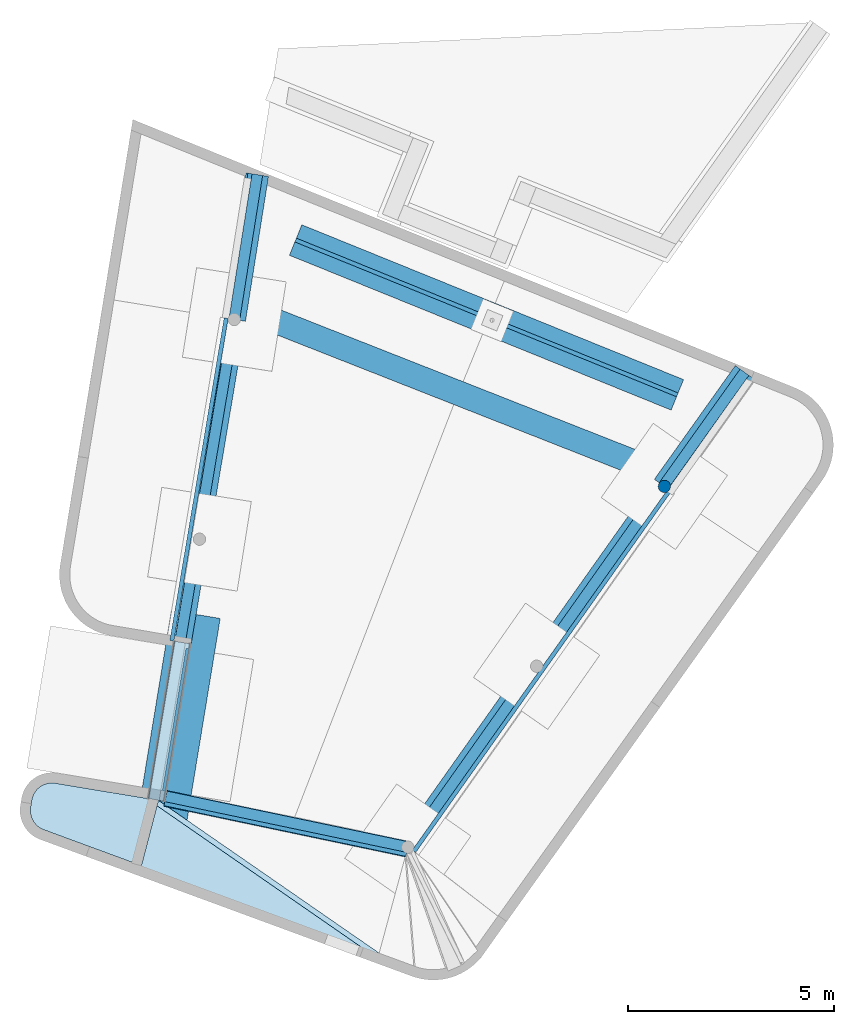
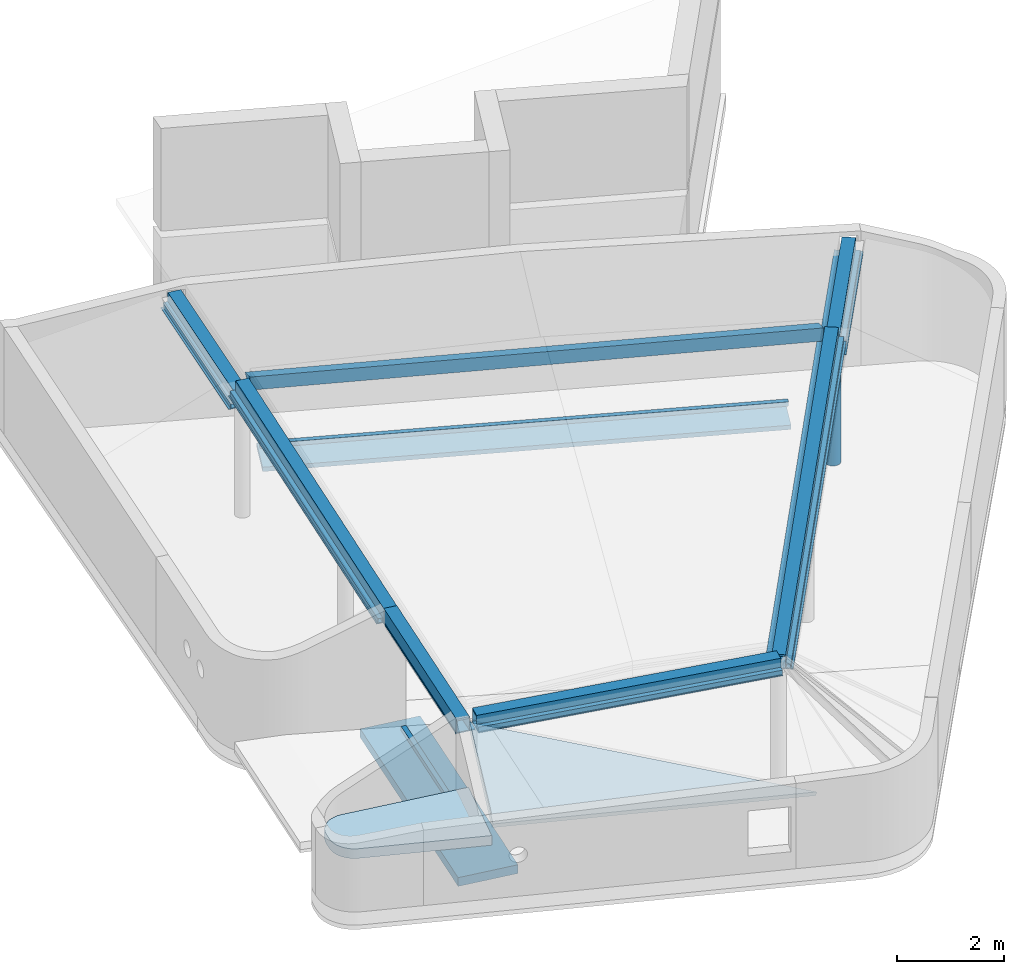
# One storey, part 2 of 8: 16 beams, 2 slabs, 1 column.
"""IFC2X3 building model written with IfcOpenShell, lengths in millimetres."""

from ifc_helpers import new_model, si_unit, frame, origin_with_axes, place, context, subcontext, project, spatial, faceted_brep, material, type_object, element, save


model = new_model("IFC2X3")

# Units and contexts
model_context = context("Model", 3, precision=1e-05, world=origin_with_axes())
body_context = subcontext(model_context, "Body", "Model", "MODEL_VIEW")
ifc_project = project(units=[si_unit("LENGTHUNIT", "METRE", prefix="MILLI"), si_unit("AREAUNIT", "SQUARE_METRE"), si_unit("VOLUMEUNIT", "CUBIC_METRE"), si_unit("MASSUNIT", "GRAM", prefix="KILO"), si_unit("TIMEUNIT", "SECOND"), si_unit("PLANEANGLEUNIT", "RADIAN"), si_unit("SOLIDANGLEUNIT", "STERADIAN"), si_unit("THERMODYNAMICTEMPERATUREUNIT", "DEGREE_CELSIUS"), si_unit("LUMINOUSINTENSITYUNIT", "LUMEN")], contexts=[model_context])

# Site, building, storey
site_placement = place(None, origin_with_axes())
site = spatial("IfcSite", under=ifc_project, at=site_placement, Name="Site", CompositionType="ELEMENT")
building_placement = place(site_placement, origin_with_axes())
building = spatial("IfcBuilding", under=site, at=building_placement, Name="Undefined", CompositionType="ELEMENT")
storey_placement = place(building_placement, origin_with_axes())
storey = spatial("IfcBuildingStorey", under=building, at=storey_placement, Name="Undefined", CompositionType="ELEMENT", Elevation=0.0)

# Column
ifc_material_1 = material(Name="CONCRETE/C55/67")
column_type = type_object("IfcColumnType", Name="D300", PredefinedType="NOTDEFINED")
column_placement = place(storey_placement, frame((53224.4614740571, 49616.051900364, 36200.0), z_axis=(0.573576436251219, 0.819152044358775, 4.37000002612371e-07), x_axis=(0.0, 0.0, 1.0)))
element("IfcColumn", 1, at=column_placement, inside=storey, type_object=column_type, material=ifc_material_1, Name="PLASSTØPTSØYLE", ObjectType="D300", context=body_context, shape_type="Brep", body=[
    faceted_brep([(446.973988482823, -150.000000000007, 0.0), (446.973988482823, -147.117792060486, -29.2635483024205), (2900.0, -147.117792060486, -29.2635483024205), (2900.0, -150.000000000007, 0.0), (446.973988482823, -138.581929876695, -57.4025148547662), (2900.0, -138.581929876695, -57.4025148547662), (446.973988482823, -124.720441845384, -83.3355349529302), (2900.0, -124.720441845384, -83.3355349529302), (446.973988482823, -106.066017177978, -106.066017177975), (2900.0, -106.066017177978, -106.066017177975), (446.973988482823, -83.3355349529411, -124.720441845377), (2900.0, -83.3355349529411, -124.720441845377), (446.973988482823, -57.4025148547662, -138.581929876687), (2900.0, -57.4025148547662, -138.581929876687), (446.973988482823, -29.2635483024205, -147.117792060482), (2900.0, -29.2635483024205, -147.117792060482), (446.973988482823, 3.63797880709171e-12, -150.0), (2900.0, 3.63797880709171e-12, -150.0), (446.973988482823, 29.2635483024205, -147.117792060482), (2900.0, 29.2635483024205, -147.117792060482), (446.973988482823, 57.4025148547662, -138.581929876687), (2900.0, 57.4025148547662, -138.581929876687), (446.973988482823, 83.3355349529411, -124.720441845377), (2900.0, 83.3355349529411, -124.720441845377), (446.973988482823, 106.066017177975, -106.066017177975), (2900.0, 106.066017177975, -106.066017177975), (446.973988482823, 124.72044184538, -83.3355349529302), (2900.0, 124.72044184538, -83.3355349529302), (446.973988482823, 138.581929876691, -57.4025148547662), (2900.0, 138.581929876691, -57.4025148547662), (446.973988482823, 147.117792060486, -29.2635483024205), (2900.0, 147.117792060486, -29.2635483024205), (446.973988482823, 150.000000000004, 0.0), (2900.0, 150.000000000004, 0.0), (446.973988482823, 147.117792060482, 29.2635483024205), (2900.0, 147.117792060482, 29.2635483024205), (446.973988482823, 138.581929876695, 57.4025148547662), (2900.0, 138.581929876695, 57.4025148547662), (446.973988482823, 124.72044184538, 83.3355349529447), (2900.0, 124.72044184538, 83.3355349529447), (446.973988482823, 106.066017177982, 106.066017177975), (2900.0, 106.066017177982, 106.066017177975), (446.973988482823, 83.3355349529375, 124.720441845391), (2900.0, 83.3355349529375, 124.720441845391), (446.973988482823, 57.4025148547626, 138.581929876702), (2900.0, 57.4025148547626, 138.581929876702), (446.973988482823, 29.2635483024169, 147.117792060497), (2900.0, 29.2635483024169, 147.117792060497), (446.973988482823, -7.27595761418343e-12, 150.0), (2900.0, -7.27595761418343e-12, 150.0), (446.973988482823, -29.2635483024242, 147.117792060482), (2900.0, -29.2635483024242, 147.117792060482), (446.973988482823, -57.4025148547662, 138.581929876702), (2900.0, -57.4025148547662, 138.581929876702), (446.973988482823, -83.3355349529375, 124.720441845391), (2900.0, -83.3355349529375, 124.720441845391), (446.973988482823, -106.066017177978, 106.066017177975), (2900.0, -106.066017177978, 106.066017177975), (446.973988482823, -124.720441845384, 83.3355349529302), (2900.0, -124.720441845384, 83.3355349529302), (446.973988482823, -138.581929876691, 57.4025148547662), (2900.0, -138.581929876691, 57.4025148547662), (446.973988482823, -147.11779206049, 29.2635483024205), (2900.0, -147.11779206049, 29.2635483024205)], [[[0, 1, 2, 3]], [[1, 4, 5, 2]], [[4, 6, 7, 5]], [[6, 8, 9, 7]], [[8, 10, 11, 9]], [[10, 12, 13, 11]], [[12, 14, 15, 13]], [[14, 16, 17, 15]], [[16, 18, 19, 17]], [[18, 20, 21, 19]], [[20, 22, 23, 21]], [[22, 24, 25, 23]], [[24, 26, 27, 25]], [[26, 28, 29, 27]], [[28, 30, 31, 29]], [[30, 32, 33, 31]], [[32, 34, 35, 33]], [[34, 36, 37, 35]], [[36, 38, 39, 37]], [[38, 40, 41, 39]], [[40, 42, 43, 41]], [[42, 44, 45, 43]], [[44, 46, 47, 45]], [[46, 48, 49, 47]], [[48, 50, 51, 49]], [[50, 52, 53, 51]], [[52, 54, 55, 53]], [[54, 56, 57, 55]], [[56, 58, 59, 57]], [[58, 60, 61, 59]], [[60, 62, 63, 61]], [[62, 0, 3, 63]], [[5, 7, 9, 11, 13, 15, 17, 19, 21, 23, 25, 27, 29, 31, 33, 35, 37, 39, 41, 43, 45, 47, 49, 51, 53, 55, 57, 59, 61, 63, 3, 2]], [[62, 60, 58, 56, 54, 52, 50, 48, 46, 44, 42, 40, 38, 36, 34, 32, 30, 28, 26, 24, 22, 20, 18, 16, 14, 12, 10, 8, 6, 4, 1, 0]]]),
])

# Beams
ifc_material_2 = material(Name="CONCRETE/C45/55")
beam_type_1 = type_object("IfcBeamType", Name="100*800", PredefinedType="NOTDEFINED")
beam_1_placement = place(storey_placement, frame((44272.9920491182, 55597.2418591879, 36249.9067074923), z_axis=(-7.14600000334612e-06, 2.89799999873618e-06, 0.999999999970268), x_axis=(0.926706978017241, -0.375784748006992, 7.7120000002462e-06)))
element("IfcBeam", 2, at=beam_1_placement, inside=storey, type_object=beam_type_1, material=ifc_material_2, Name="PLASSTØPTFUNDAMENT", ObjectType="100*800", context=body_context, shape_type="Brep", body=[
    faceted_brep([(3.63834260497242e-08, 399.999999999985, -49.9999999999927), (-3.63907020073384e-08, 399.999999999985, 50.0), (9999.99841485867, 399.999999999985, 50.0000000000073), (9999.99841493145, 400.0, -49.9999999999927), (-3.63907020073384e-08, -400.0, 50.0), (9999.99841485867, -400.000000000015, 50.0), (3.63797880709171e-08, -400.000000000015, -50.0), (9999.99841493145, -400.0, -49.9999999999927)], [[[0, 1, 2, 3]], [[1, 4, 5, 2]], [[4, 6, 7, 5]], [[6, 0, 3, 7]], [[5, 7, 3, 2]], [[6, 4, 1, 0]]]),
])
beam_type_2 = type_object("IfcBeamType", Name="100*100", PredefinedType="NOTDEFINED")
beam_2_placement = place(storey_placement, frame((41088.3537004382, 42225.3778449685, 36990.2637292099), z_axis=(0.0, 0.0, 1.0), x_axis=(0.163736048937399, 0.986504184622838, 1.99999957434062e-09)))
element("IfcBeam", 3, at=beam_2_placement, inside=storey, type_object=beam_type_2, material=ifc_material_1, Name="SLUKRENNE", ObjectType="100*100", context=body_context, shape_type="Brep", body=[
    faceted_brep([(1.34605215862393e-09, 49.9999999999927, -50.0000000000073), (-1.35332811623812e-09, 49.9999999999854, 49.9999999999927), (3499.73999524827, 49.9999999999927, 49.9999999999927), (3499.73999525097, 50.0, -50.0000000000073), (-1.35332811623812e-09, -50.0000000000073, 50.0), (3499.73999524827, -50.0000000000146, 50.0), (1.34605215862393e-09, -50.0, -50.0), (3499.73999525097, -50.0000000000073, -50.0)], [[[0, 1, 2, 3]], [[1, 4, 5, 2]], [[4, 6, 7, 5]], [[6, 0, 3, 7]], [[5, 7, 3, 2]], [[6, 4, 1, 0]]]),
])
beam_3_placement = place(storey_placement, frame((44272.9920491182, 55597.2418591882, 36539.9067074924), z_axis=(-7.14600000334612e-06, 2.89799999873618e-06, 0.999999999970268), x_axis=(0.926706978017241, -0.375784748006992, 7.7120000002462e-06)))
element("IfcBeam", 4, at=beam_3_placement, inside=storey, type_object=beam_type_2, material=ifc_material_1, Name="SLUKRENNE", ObjectType="100*100", context=body_context, shape_type="Brep", body=[
    faceted_brep([(1.34605215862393e-09, 49.9999999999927, -50.0000000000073), (-1.35332811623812e-09, 49.9999999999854, 49.9999999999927), (9999.99841485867, 50.0, 50.0), (9999.99841493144, 50.0000000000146, -50.0), (-1.35332811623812e-09, -50.0000000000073, 50.0), (9999.99841485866, -50.0, 50.0), (1.34605215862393e-09, -50.0, -50.0), (9999.99841493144, -49.9999999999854, -50.0)], [[[0, 1, 2, 3]], [[1, 4, 5, 2]], [[4, 6, 7, 5]], [[6, 0, 3, 7]], [[5, 7, 3, 2]], [[6, 4, 1, 0]]]),
])
beam_type_3 = type_object("IfcBeamType", Name="200*1200", PredefinedType="NOTDEFINED")
beam_4_placement = place(storey_placement, frame((41849.4864097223, 46508.7702236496, 36450.0), z_axis=(0.0, 0.0, 1.0), x_axis=(-0.1620464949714, -0.986783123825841, 0.0)))
element("IfcBeam", 5, at=beam_4_placement, inside=storey, type_object=beam_type_3, material=ifc_material_2, Name="PLASSTØPTFUNDAMENT", ObjectType="200*1200", context=body_context, shape_type="Brep", body=[
    faceted_brep([(-2.18278728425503e-11, 600.0, -100.0), (-2.18278728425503e-11, 600.0, 100.0), (5200.88687389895, 600.0, 100.0), (5200.88687389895, 600.0, -100.0), (-1.45519152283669e-11, -600.000000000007, 100.0), (5200.88687389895, -600.0, 100.0), (-1.45519152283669e-11, -600.000000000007, -100.0), (5200.88687389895, -600.0, -100.0)], [[[0, 1, 2, 3]], [[1, 4, 5, 2]], [[4, 6, 7, 5]], [[6, 0, 3, 7]], [[5, 7, 3, 2]], [[6, 4, 1, 0]]]),
])
beam_type_4 = type_object("IfcBeamType", Name="TRIANGLE300*600", PredefinedType="NOTDEFINED")
beam_5_placement = place(storey_placement, frame((53158.6875484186, 49939.1893886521, 39589.9999938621), z_axis=(0.0, 0.0, 1.0), x_axis=(-0.930478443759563, 0.366346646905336, 1.00000022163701e-09)))
element("IfcBeam", 6, at=beam_5_placement, inside=storey, type_object=beam_type_4, material=ifc_material_1, Name="PLASSTØPTBJELKE", ObjectType="TRIANGLE300*600", context=body_context, shape_type="Brep", body=[
    faceted_brep([(-1.04446371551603e-08, 300.0, 150.0), (1.04228092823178e-08, -300.0, -150.0), (10873.3196159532, -300.0, -150.0), (10873.3196159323, 300.0, 150.0), (1.04155333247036e-08, 300.0, -150.0), (10873.3196159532, 300.0, -150.0)], [[[0, 1, 2, 3]], [[1, 4, 5, 2]], [[4, 0, 3, 5]], [[5, 3, 2]], [[4, 1, 0]]]),
])
ifc_material_3 = material(Name="STEEL/S355")
beam_type_5 = type_object("IfcBeamType", Name="RHS100*5", PredefinedType="NOTDEFINED")
beam_6_placement = place(storey_placement, frame((47143.8567840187, 40755.200737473, 39469.9999998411), z_axis=(0.0, 0.0, 1.0), x_axis=(0.577858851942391, 0.816136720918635, 0.0)))
element("IfcBeam", 7, at=beam_6_placement, inside=storey, type_object=beam_type_5, material=ifc_material_3, Name="STÅLBJELKE", ObjectType="RHS100*5", context=body_context, shape_type="Brep", body=[
    faceted_brep([(7.27595761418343e-12, 45.0000000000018, -45.0), (7.27595761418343e-12, -45.0000000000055, -45.0), (10745.456048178, -45.0000000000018, -45.0), (10745.456048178, 44.9999999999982, -45.0), (7.27595761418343e-12, -45.0000000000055, 45.0), (10745.456048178, -45.0000000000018, 45.0), (7.27595761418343e-12, 45.0000000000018, 45.0), (10745.456048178, 44.9999999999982, 45.0), (1.34605215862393e-09, 49.9999999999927, -50.0000000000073), (-1.35332811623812e-09, 49.9999999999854, 49.9999999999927), (10745.456048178, 49.9999999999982, 50.0), (10745.456048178, 49.9999999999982, -50.0), (-1.35332811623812e-09, -50.0000000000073, 50.0), (10745.456048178, -50.0000000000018, 50.0), (1.34605215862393e-09, -50.0, -50.0), (10745.456048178, -50.0000000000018, -50.0)], [[[0, 1, 2, 3]], [[1, 4, 5, 2]], [[4, 6, 7, 5]], [[6, 0, 3, 7]], [[8, 9, 10, 11]], [[9, 12, 13, 10]], [[12, 14, 15, 13]], [[14, 8, 11, 15]], [[13, 15, 11, 10], [5, 7, 3, 2]], [[14, 12, 9, 8], [6, 4, 1, 0]]]),
])
beam_7_placement = place(storey_placement, frame((55250.5353313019, 52190.2478695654, 39164.9999998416), z_axis=(0.0, 0.0, 1.0), x_axis=(-0.579931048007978, -0.814665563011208, 0.0)))
element("IfcBeam", 8, at=beam_7_placement, inside=storey, type_object=beam_type_5, material=ifc_material_3, Name="STÅLBJELKE", ObjectType="RHS100*5", context=body_context, shape_type="Brep", body=[
    faceted_brep([(7.27595761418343e-12, 45.0000000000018, -45.0), (7.27595761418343e-12, -45.0000000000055, -45.0), (3272.09018302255, -45.0000000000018, -45.0), (3272.09018302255, 44.9999999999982, -45.0), (7.27595761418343e-12, -45.0000000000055, 45.0), (3272.09018302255, -45.0000000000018, 45.0), (7.27595761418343e-12, 45.0000000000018, 45.0), (3272.09018302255, 44.9999999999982, 45.0), (1.34605215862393e-09, 49.9999999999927, -50.0000000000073), (-1.35332811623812e-09, 49.9999999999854, 49.9999999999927), (3272.09018302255, 50.0000000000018, 50.0), (3272.09018302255, 50.0000000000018, -50.0), (-1.35332811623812e-09, -50.0000000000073, 50.0), (3272.09018302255, -50.0000000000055, 50.0), (1.34605215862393e-09, -50.0, -50.0), (3272.09018302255, -50.0000000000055, -50.0)], [[[0, 1, 2, 3]], [[1, 4, 5, 2]], [[4, 6, 7, 5]], [[6, 0, 3, 7]], [[8, 9, 10, 11]], [[9, 12, 13, 10]], [[12, 14, 15, 13]], [[14, 8, 11, 15]], [[13, 15, 11, 10], [5, 7, 3, 2]], [[14, 12, 9, 8], [6, 4, 1, 0]]]),
])
beam_8_placement = place(storey_placement, frame((43163.9086078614, 57213.3003727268, 39165.0), z_axis=(0.0, 0.0, 1.0), x_axis=(-0.157044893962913, -0.987591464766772, 0.0)))
element("IfcBeam", 9, at=beam_8_placement, inside=storey, type_object=beam_type_5, material=ifc_material_3, Name="STÅLBJELKE", ObjectType="RHS100*5", context=body_context, shape_type="Brep", body=[
    faceted_brep([(7.27595761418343e-12, 45.0000000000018, -45.0), (7.27595761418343e-12, -45.0000000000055, -45.0), (3560.72210904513, -44.9999999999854, -45.0), (3560.72210904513, 45.0000000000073, -45.0), (7.27595761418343e-12, -45.0000000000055, 45.0), (3560.72210904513, -44.9999999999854, 45.0), (7.27595761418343e-12, 45.0000000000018, 45.0), (3560.72210904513, 45.0000000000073, 45.0), (1.34605215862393e-09, 49.9999999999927, -50.0000000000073), (-1.35332811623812e-09, 49.9999999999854, 49.9999999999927), (3560.72210904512, 50.0000000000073, 50.0), (3560.72210904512, 50.0000000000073, -50.0), (-1.35332811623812e-09, -50.0000000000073, 50.0), (3560.72210904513, -49.9999999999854, 50.0), (1.34605215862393e-09, -50.0, -50.0), (3560.72210904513, -49.9999999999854, -50.0)], [[[0, 1, 2, 3]], [[1, 4, 5, 2]], [[4, 6, 7, 5]], [[6, 0, 3, 7]], [[8, 9, 10, 11]], [[9, 12, 13, 10]], [[12, 14, 15, 13]], [[14, 8, 11, 15]], [[13, 15, 11, 10], [5, 7, 3, 2]], [[14, 12, 9, 8], [6, 4, 1, 0]]]),
])
beam_9_placement = place(storey_placement, frame((41087.2458950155, 41914.8546853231, 39470.0000000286), z_axis=(0.0, 0.0, 1.0), x_axis=(0.978682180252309, -0.205380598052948, 0.0)))
element("IfcBeam", 10, at=beam_9_placement, inside=storey, type_object=beam_type_5, material=ifc_material_3, Name="STÅLBJELKE", ObjectType="RHS100*5", context=body_context, shape_type="Brep", body=[
    faceted_brep([(7.27595761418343e-12, 45.0000000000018, -45.0), (7.27595761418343e-12, -45.0000000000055, -45.0), (5999.62165334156, -45.0, -45.0), (5999.62165334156, 45.0, -45.0), (7.27595761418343e-12, -45.0000000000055, 45.0), (5999.62165334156, -45.0, 45.0), (7.27595761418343e-12, 45.0000000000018, 45.0), (5999.62165334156, 45.0, 45.0), (1.34605215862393e-09, 49.9999999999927, -50.0000000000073), (-1.35332811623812e-09, 49.9999999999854, 49.9999999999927), (5999.62165334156, 50.0, 50.0), (5999.62165334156, 50.0, -50.0), (-1.35332811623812e-09, -50.0000000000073, 50.0), (5999.62165334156, -50.0, 50.0), (1.34605215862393e-09, -50.0, -50.0), (5999.62165334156, -50.0, -50.0)], [[[0, 1, 2, 3]], [[1, 4, 5, 2]], [[4, 6, 7, 5]], [[6, 0, 3, 7]], [[8, 9, 10, 11]], [[9, 12, 13, 10]], [[12, 14, 15, 13]], [[14, 8, 11, 15]], [[13, 15, 11, 10], [5, 7, 3, 2]], [[14, 12, 9, 8], [6, 4, 1, 0]]]),
])
beam_type_6 = type_object("IfcBeamType", Name="RHS100*4", PredefinedType="NOTDEFINED")
beam_10_placement = place(storey_placement, frame((42586.2384896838, 53701.5160077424, 39470.0), z_axis=(0.0, 0.0, 1.0), x_axis=(-0.165930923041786, -0.986137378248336, 0.0)))
element("IfcBeam", 11, at=beam_10_placement, inside=storey, type_object=beam_type_6, material=ifc_material_3, Name="STÅLBJELKE", ObjectType="RHS100*4", context=body_context, shape_type="Brep", body=[
    faceted_brep([(0.0, 46.0, -46.0), (0.0, -46.0, -46.0), (7941.79073521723, -45.9999999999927, -46.0), (7941.79073521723, 46.0, -46.0), (0.0, -46.0, 46.0), (7941.79073521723, -45.9999999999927, 46.0), (0.0, 46.0, 46.0), (7941.79073521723, 46.0, 46.0), (1.34605215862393e-09, 49.9999999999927, -50.0000000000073), (-1.35332811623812e-09, 49.9999999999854, 49.9999999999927), (7941.79073521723, 50.0000000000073, 50.0), (7941.79073521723, 50.0000000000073, -50.0), (-1.35332811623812e-09, -50.0000000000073, 50.0), (7941.79073521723, -50.0, 50.0), (1.34605215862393e-09, -50.0, -50.0), (7941.79073521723, -50.0, -50.0)], [[[0, 1, 2, 3]], [[1, 4, 5, 2]], [[4, 6, 7, 5]], [[6, 0, 3, 7]], [[8, 9, 10, 11]], [[9, 12, 13, 10]], [[12, 14, 15, 13]], [[14, 8, 11, 15]], [[13, 15, 11, 10], [5, 7, 3, 2]], [[14, 12, 9, 8], [6, 4, 1, 0]]]),
])
beam_type_7 = type_object("IfcBeamType", Name="HSQ305*6-40*250-20*390-12", PredefinedType="NOTDEFINED")
beam_11_placement = place(storey_placement, frame((46996.137196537, 40859.7902743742, 39562.5000000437), z_axis=(0.0, 0.0, 1.0), x_axis=(-0.978682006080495, 0.205381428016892, 0.0)))
element("IfcBeam", 12, at=beam_11_placement, inside=storey, type_object=beam_type_7, material=ifc_material_3, Name="STÅLBJELKE", ObjectType="HSQ305*6-40*250-20*390-12", context=body_context, shape_type="Brep", body=[
    faceted_brep([(-2.92639015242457e-08, 125.0, -142.500000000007), (-2.92566255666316e-08, -125.000000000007, -142.5), (5999.61787352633, -125.000000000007, -142.5), (5999.61787352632, 125.0, -142.500000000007), (2.51602614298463e-08, -125.000000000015, 122.5), (5999.61787358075, -125.000000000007, 122.5), (2.51602614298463e-08, 124.999999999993, 122.499999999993), (5999.61787358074, 124.999999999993, 122.499999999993), (-3.33748175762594e-08, 246.999999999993, -162.500000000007), (-2.92639015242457e-08, 246.999999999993, -142.500000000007), (5999.61787352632, 246.999999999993, -142.500000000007), (5999.61787352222, 246.999999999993, -162.500000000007), (-2.92639015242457e-08, 130.999999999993, -142.500000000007), (5999.61787352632, 130.999999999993, -142.500000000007), (3.33748175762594e-08, 131.0, 162.499999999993), (5999.61787358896, 131.0, 162.499999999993), (3.33675416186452e-08, -131.000000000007, 162.5), (5999.61787358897, -131.0, 162.5), (-2.92639015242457e-08, -131.000000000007, -142.5), (5999.61787352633, -131.000000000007, -142.5), (-2.92566255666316e-08, -143.000000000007, -142.5), (5999.61787352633, -143.000000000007, -142.5), (-3.33748175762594e-08, -143.000000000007, -162.5), (5999.61787352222, -143.000000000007, -162.5)], [[[0, 1, 2, 3]], [[1, 4, 5, 2]], [[4, 6, 7, 5]], [[6, 0, 3, 7]], [[8, 9, 10, 11]], [[9, 12, 13, 10]], [[12, 14, 15, 13]], [[14, 16, 17, 15]], [[16, 18, 19, 17]], [[18, 20, 21, 19]], [[20, 22, 23, 21]], [[22, 8, 11, 23]], [[13, 15, 17, 19, 21, 23, 11, 10], [5, 7, 3, 2]], [[22, 20, 18, 16, 14, 12, 9, 8], [6, 4, 1, 0]]]),
])
beam_type_8 = type_object("IfcBeamType", Name="HSQ305*6-40*250-20*550", PredefinedType="NOTDEFINED")
beam_12_placement = place(storey_placement, frame((53205.4929333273, 49629.5544535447, 39562.5000000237), z_axis=(0.0, 0.0, 1.0), x_axis=(-0.577858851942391, -0.816136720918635, 0.0)))
element("IfcBeam", 13, at=beam_12_placement, inside=storey, type_object=beam_type_8, material=ifc_material_3, Name="STÅLBJELKE", ObjectType="HSQ305*6-40*250-20*550", context=body_context, shape_type="Brep", body=[
    faceted_brep([(-2.92639015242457e-08, 125.0, -142.500000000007), (-2.92566255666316e-08, -125.000000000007, -142.5), (10745.4560482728, -125.000000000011, -142.5), (10745.4560482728, 124.999999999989, -142.500000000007), (2.51602614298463e-08, -125.000000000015, 122.5), (10745.4560482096, -125.000000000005, 122.5), (2.51602614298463e-08, 124.999999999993, 122.499999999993), (10745.4560482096, 124.999999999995, 122.499999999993), (3.87080945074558e-08, 274.999999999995, -162.5), (3.39496182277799e-08, 274.999999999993, -142.5), (10745.4560482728, 274.999999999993, -142.5), (10745.4560482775, 274.999999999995, -162.5), (-2.92639015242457e-08, 130.999999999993, -142.500000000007), (10745.4560482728, 130.999999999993, -142.5), (3.33748175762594e-08, 131.0, 162.499999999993), (10745.4560482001, 130.999999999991, 162.5), (3.33675416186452e-08, -131.000000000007, 162.5), (10745.4560482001, -131.000000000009, 162.499999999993), (-2.92639015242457e-08, -131.000000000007, -142.5), (10745.4560482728, -131.000000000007, -142.500000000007), (3.39496182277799e-08, -275.000000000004, -142.5), (10745.4560482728, -275.000000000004, -142.5), (3.87080945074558e-08, -275.000000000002, -162.5), (10745.4560482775, -275.000000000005, -162.5)], [[[0, 1, 2, 3]], [[1, 4, 5, 2]], [[4, 6, 7, 5]], [[6, 0, 3, 7]], [[8, 9, 10, 11]], [[9, 12, 13, 10]], [[12, 14, 15, 13]], [[14, 16, 17, 15]], [[16, 18, 19, 17]], [[18, 20, 21, 19]], [[20, 22, 23, 21]], [[22, 8, 11, 23]], [[13, 15, 17, 19, 21, 23, 11, 10], [5, 7, 3, 2]], [[22, 20, 18, 16, 14, 12, 9, 8], [6, 4, 1, 0]]]),
])
beam_13_placement = place(storey_placement, frame((42783.4714741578, 53668.331900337, 39562.4999999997), z_axis=(0.0, 0.0, 1.0), x_axis=(-0.1658950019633, -0.98614342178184, 0.0)))
element("IfcBeam", 14, at=beam_13_placement, inside=storey, type_object=beam_type_8, material=ifc_material_3, Name="STÅLBJELKE", ObjectType="HSQ305*6-40*250-20*550", context=body_context, shape_type="Brep", body=[
    faceted_brep([(-2.92639015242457e-08, 125.0, -142.500000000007), (-2.92566255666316e-08, -125.000000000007, -142.5), (7941.774134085, -125.0, -142.5), (7941.774134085, 124.999999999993, -142.5), (2.51602614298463e-08, -125.000000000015, 122.5), (7941.77413412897, -125.0, 122.5), (2.51602614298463e-08, 124.999999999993, 122.499999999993), (7941.77413412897, 125.0, 122.5), (3.87080945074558e-08, 274.999999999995, -162.5), (3.39496182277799e-08, 274.999999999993, -142.5), (7941.774134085, 275.0, -142.5), (7941.77413408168, 275.0, -162.5), (-2.92639015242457e-08, 130.999999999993, -142.500000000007), (7941.77413408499, 131.0, -142.5), (3.33748175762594e-08, 131.0, 162.499999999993), (7941.77413413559, 130.999999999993, 162.5), (3.33675416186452e-08, -131.000000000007, 162.5), (7941.7741341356, -131.0, 162.5), (-2.92639015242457e-08, -131.000000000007, -142.5), (7941.774134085, -131.000000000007, -142.5), (3.39496182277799e-08, -275.000000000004, -142.5), (7941.774134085, -275.0, -142.5), (3.87080945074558e-08, -275.000000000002, -162.5), (7941.77413408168, -275.0, -162.5)], [[[0, 1, 2, 3]], [[1, 4, 5, 2]], [[4, 6, 7, 5]], [[6, 0, 3, 7]], [[8, 9, 10, 11]], [[9, 12, 13, 10]], [[12, 14, 15, 13]], [[14, 16, 17, 15]], [[16, 18, 19, 17]], [[18, 20, 21, 19]], [[20, 22, 23, 21]], [[22, 8, 11, 23]], [[13, 15, 17, 19, 21, 23, 11, 10], [5, 7, 3, 2]], [[22, 20, 18, 16, 14, 12, 9, 8], [6, 4, 1, 0]]]),
])
beam_type_9 = type_object("IfcBeamType", Name="HSQ305*6-30*250-15*550", PredefinedType="NOTDEFINED")
beam_14_placement = place(storey_placement, frame((55169.4334048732, 52387.9531796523, 39260.0000000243), z_axis=(0.0, 0.0, 1.0), x_axis=(-0.579996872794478, -0.814618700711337, 0.0)))
element("IfcBeam", 15, at=beam_14_placement, inside=storey, type_object=beam_type_9, material=ifc_material_3, Name="STÅLBJELKE", ObjectType="HSQ305*6-30*250-15*550", context=body_context, shape_type="Brep", body=[
    faceted_brep([(0.0, 125.0, -145.0), (0.0, -125.000000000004, -145.0), (3386.1225181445, -125.000000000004, -145.0), (3386.1225181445, 124.999999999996, -145.0), (0.0, -125.000000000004, 130.0), (3386.1225181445, -125.000000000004, 130.0), (0.0, 125.0, 130.0), (3386.1225181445, 124.999999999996, 130.0), (0.0, 275.0, -160.0), (0.0, 275.0, -145.0), (3386.1225181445, 274.999999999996, -145.0), (3386.1225181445, 274.999999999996, -160.0), (0.0, 131.0, -145.0), (3386.1225181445, 131.0, -145.0), (0.0, 131.0, 160.0), (3386.1225181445, 131.0, 160.0), (-1.45519152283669e-11, -131.000000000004, 160.0), (3386.1225181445, -131.000000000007, 160.0), (-1.45519152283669e-11, -131.000000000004, -145.0), (3386.1225181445, -131.000000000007, -145.0), (0.0, -275.000000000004, -145.0), (3386.12251814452, -275.000000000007, -145.0), (0.0, -275.000000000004, -160.0), (3386.12251814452, -275.000000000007, -160.0)], [[[0, 1, 2, 3]], [[1, 4, 5, 2]], [[4, 6, 7, 5]], [[6, 0, 3, 7]], [[8, 9, 10, 11]], [[9, 12, 13, 10]], [[12, 14, 15, 13]], [[14, 16, 17, 15]], [[16, 18, 19, 17]], [[18, 20, 21, 19]], [[20, 22, 23, 21]], [[22, 8, 11, 23]], [[13, 15, 17, 19, 21, 23, 11, 10], [5, 7, 3, 2]], [[22, 20, 18, 16, 14, 12, 9, 8], [6, 4, 1, 0]]]),
])
beam_15_placement = place(storey_placement, frame((42783.4736749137, 53668.3326305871, 39259.9999999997), z_axis=(0.0, 0.0, 1.0), x_axis=(0.157044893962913, 0.987591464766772, 0.0)))
element("IfcBeam", 16, at=beam_15_placement, inside=storey, type_object=beam_type_9, material=ifc_material_3, Name="STÅLBJELKE", ObjectType="HSQ305*6-30*250-15*550", context=body_context, shape_type="Brep", body=[
    faceted_brep([(0.0, 125.0, -145.0), (0.0, -125.000000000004, -145.0), (3560.72210909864, -125.0, -145.0), (3560.72210909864, 124.999999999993, -144.999999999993), (0.0, -125.000000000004, 130.0), (3560.72210905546, -125.0, 130.0), (0.0, 125.0, 130.0), (3560.72210905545, 125.0, 130.000000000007), (0.0, 275.0, -160.0), (0.0, 275.0, -145.0), (3560.72210909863, 274.999999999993, -144.999999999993), (3560.72210910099, 275.0, -159.999999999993), (0.0, 131.0, -145.0), (3560.72210909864, 131.0, -145.0), (0.0, 131.0, 160.0), (3560.72210905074, 131.0, 160.0), (-1.45519152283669e-11, -131.000000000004, 160.0), (3560.72210905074, -131.000000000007, 160.000000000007), (-1.45519152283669e-11, -131.000000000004, -145.0), (3560.72210909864, -130.999999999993, -144.999999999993), (0.0, -275.000000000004, -145.0), (3560.72210909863, -275.000000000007, -145.0), (0.0, -275.000000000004, -160.0), (3560.72210910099, -275.0, -160.0)], [[[0, 1, 2, 3]], [[1, 4, 5, 2]], [[4, 6, 7, 5]], [[6, 0, 3, 7]], [[8, 9, 10, 11]], [[9, 12, 13, 10]], [[12, 14, 15, 13]], [[14, 16, 17, 15]], [[16, 18, 19, 17]], [[18, 20, 21, 19]], [[20, 22, 23, 21]], [[22, 8, 11, 23]], [[13, 15, 17, 19, 21, 23, 11, 10], [5, 7, 3, 2]], [[22, 20, 18, 16, 14, 12, 9, 8], [6, 4, 1, 0]]]),
])
beam_type_10 = type_object("IfcBeamType", Name="HSQ305*6-40*250-25*390-15", PredefinedType="NOTDEFINED")
beam_16_placement = place(storey_placement, frame((41466.0214741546, 45836.9319003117, 39565.0000000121), z_axis=(0.0, 0.0, 1.0), x_axis=(-0.163622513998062, -0.986523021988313, 0.0)))
element("IfcBeam", 17, at=beam_16_placement, inside=storey, type_object=beam_type_10, material=ifc_material_3, Name="STÅLBJELKE", ObjectType="HSQ305*6-40*250-25*390-15", context=body_context, shape_type="Brep", body=[
    faceted_brep([(2.04381649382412e-08, -124.999999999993, 125.0), (2.04381649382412e-08, 125.000000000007, 125.000000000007), (3875.26518393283, 125.000000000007, 125.000000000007), (3875.26518393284, -124.999999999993, 125.0), (-2.29192664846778e-08, -124.999999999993, -140.0), (3875.26518388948, -124.999999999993, -140.0), (-2.70010787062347e-08, -145.999999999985, -164.999999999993), (-2.70083546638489e-08, 244.000000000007, -164.999999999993), (3875.26518388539, 244.000000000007, -164.999999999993), (3875.26518388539, -145.999999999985, -164.999999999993), (-2.29119905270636e-08, -145.999999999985, -139.999999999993), (3875.26518388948, -145.999999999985, -139.999999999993), (-2.29119905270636e-08, -130.999999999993, -139.999999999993), (3875.26518388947, -130.999999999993, -139.999999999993), (2.70010787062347e-08, -130.999999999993, 165.000000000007), (3875.26518393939, -130.999999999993, 165.000000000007), (2.69938027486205e-08, 131.000000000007, 165.0), (3875.26518393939, 131.000000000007, 165.0), (-2.29192664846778e-08, 131.000000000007, -140.0), (3875.26518388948, 131.000000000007, -140.0), (-2.29119905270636e-08, 244.000000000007, -139.999999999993), (3875.26518388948, 244.000000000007, -139.999999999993), (-2.29119905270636e-08, 125.000000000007, -139.999999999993), (3875.26518388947, 125.000000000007, -139.999999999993)], [[[0, 1, 2, 3]], [[4, 0, 3, 5]], [[6, 7, 8, 9]], [[10, 6, 9, 11]], [[12, 10, 11, 13]], [[14, 12, 13, 15]], [[16, 14, 15, 17]], [[18, 16, 17, 19]], [[20, 18, 19, 21]], [[7, 20, 21, 8]], [[6, 10, 12, 14, 16, 18, 20, 7], [1, 0, 4, 22]], [[1, 22, 23, 2]], [[19, 17, 15, 13, 11, 9, 8, 21], [3, 2, 23, 5]], [[22, 4, 5, 23]]]),
])

# Slabs
ifc_material_4 = material(Name="CONCRETE/C35/45")
slab_type_1 = type_object("IfcSlabType", Name="220*1659", PredefinedType="NOTDEFINED")
slab_1_placement = place(storey_placement, frame((37882.0462479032, 41292.5892263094, 38010.39), z_axis=(0.355995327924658, 0.934487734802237, 0.0), x_axis=(0.934487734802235, -0.355995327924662, 0.0)))
element("IfcSlab", 18, at=slab_1_placement, inside=storey, type_object=slab_type_1, material=ifc_material_4, Name="PLASSTØPTDEKKE", ObjectType="220*1659", PredefinedType="FLOOR", context=body_context, shape_type="Brep", body=[
    faceted_brep([(-266.899909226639, -110.000000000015, 655.253673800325), (-266.899909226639, 109.999999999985, 655.253673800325), (-250.066943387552, 109.999999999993, 571.915992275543), (-250.066943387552, -110.000000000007, 571.915992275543), (-274.242945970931, -110.000000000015, 703.768765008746), (-274.242945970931, 109.999999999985, 703.768765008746), (-276.795315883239, -110.000000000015, 752.769986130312), (-276.795315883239, 109.999999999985, 752.769986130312), (-274.532438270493, -110.000000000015, 801.785429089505), (-274.532438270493, 109.999999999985, 801.785429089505), (-267.476105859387, -110.000000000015, 850.34304884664), (-267.476105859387, 109.999999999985, 850.34304884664), (-255.694274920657, -110.000000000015, 897.975209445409), (-255.694274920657, 109.999999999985, 897.975209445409), (-239.300410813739, -110.000000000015, 944.223187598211), (-239.300410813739, 109.999999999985, 944.223187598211), (-218.452395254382, -110.000000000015, 988.64159043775), (-218.452395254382, 109.999999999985, 988.64159043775), (-193.351005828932, -110.000000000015, 1030.80264488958), (-193.351005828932, 109.999999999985, 1030.80264488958), (-164.237982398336, -110.000000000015, 1070.3003173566), (-164.237982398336, 109.999999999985, 1070.3003173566), (-131.393699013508, -110.000000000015, 1106.7542240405), (-131.393699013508, 109.999999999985, 1106.7542240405), (-95.1344637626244, -110.000000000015, 1139.81329424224), (-95.1344637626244, 109.999999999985, 1139.81329424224), (-55.8094725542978, -110.000000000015, 1169.15915136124), (-55.8094725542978, 109.999999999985, 1169.15915136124), (-13.7974461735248, -110.000000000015, 1194.50917903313), (-13.7974461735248, 109.999999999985, 1194.50917903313), (30.4970170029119, -110.000000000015, 1215.61924287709), (30.4970170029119, 109.999999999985, 1215.61924287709), (76.6473375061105, -110.000000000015, 1232.28604164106), (76.6473375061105, 109.999999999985, 1232.28604164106), (124.209062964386, -110.000000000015, 1244.34906510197), (124.209062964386, 109.999999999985, 1244.34906510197), (2608.65474295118, -110.0, 1746.16234445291), (2608.6547112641, 110.0, 1746.16263362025), (-233.212902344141, -110.000000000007, 488.473679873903), (-233.212902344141, 109.999999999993, 488.473679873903), (-221.066839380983, 109.999999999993, 440.641221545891), (-221.066839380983, -110.000000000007, 440.641221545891), (-204.26458118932, 109.999999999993, 394.239119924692), (-204.26458118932, -110.000000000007, 394.239119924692), (-182.969813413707, 109.999999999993, 349.719418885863), (-182.969813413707, -110.000000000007, 349.719418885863), (-157.389987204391, 109.999999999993, 307.515824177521), (-157.389987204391, -110.000000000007, 307.515824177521), (-127.774298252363, 109.999999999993, 268.039478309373), (-127.774298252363, -110.000000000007, 268.039478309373), (-94.4112591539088, 109.999999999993, 231.674955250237), (-94.4112591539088, -110.000000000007, 231.674955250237), (-57.6258887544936, 109.999999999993, 198.776513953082), (-57.6258887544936, -110.000000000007, 198.776513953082), (-17.7765458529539, 109.999999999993, 169.664647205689), (-17.7765458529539, -110.000000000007, 169.664647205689), (24.7485618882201, 109.999999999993, 144.622959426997), (24.7485618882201, -110.000000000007, 144.622959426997), (69.5351598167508, 109.999999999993, 123.895403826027), (69.5351598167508, -110.000000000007, 123.895403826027), (116.14694210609, 109.999999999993, 107.683905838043), (116.14694210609, -110.000000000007, 107.683905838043), (164.129822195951, 109.999999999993, 96.1463959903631), (164.129822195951, -110.000000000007, 96.1463959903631), (213.016356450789, 109.999999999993, 89.39527136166), (213.016356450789, -110.000000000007, 89.39527136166), (262.330297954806, 109.999999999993, 87.4963006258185), (262.330297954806, -110.000000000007, 87.4963006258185), (1447.42056172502, -109.999999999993, 100.392694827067), (1447.28749124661, 110.0, 100.391211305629), (2787.32303276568, 110.0, 115.686394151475), (2787.32305893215, -110.0, 115.686155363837)], [[[0, 1, 2, 3]], [[4, 5, 1, 0]], [[6, 7, 5, 4]], [[8, 9, 7, 6]], [[10, 11, 9, 8]], [[12, 13, 11, 10]], [[14, 15, 13, 12]], [[16, 17, 15, 14]], [[18, 19, 17, 16]], [[20, 21, 19, 18]], [[22, 23, 21, 20]], [[24, 25, 23, 22]], [[26, 27, 25, 24]], [[28, 29, 27, 26]], [[30, 31, 29, 28]], [[32, 33, 31, 30]], [[34, 35, 33, 32]], [[36, 37, 35, 34]], [[38, 39, 40, 41]], [[41, 40, 42, 43]], [[43, 42, 44, 45]], [[45, 44, 46, 47]], [[47, 46, 48, 49]], [[49, 48, 50, 51]], [[51, 50, 52, 53]], [[53, 52, 54, 55]], [[55, 54, 56, 57]], [[57, 56, 58, 59]], [[59, 58, 60, 61]], [[61, 60, 62, 63]], [[63, 62, 64, 65]], [[65, 64, 66, 67]], [[68, 67, 66, 69]], [[70, 71, 68, 69]], [[32, 30, 28, 26, 24, 22, 20, 18, 16, 14, 12, 10, 8, 6, 4, 0, 3, 38, 41, 43, 45, 47, 49, 51, 53, 55, 57, 59, 61, 63, 65, 67, 68, 71, 36, 34]], [[39, 38, 3, 2]], [[70, 69, 66, 64, 62, 60, 58, 56, 54, 52, 50, 48, 46, 44, 42, 40, 39, 2, 1, 5, 7, 9, 11, 13, 15, 17, 19, 21, 23, 25, 27, 29, 31, 33, 35, 37]], [[71, 70, 37, 36]]]),
])
slab_type_2 = type_object("IfcSlabType", Name="220*1890", PredefinedType="NOTDEFINED")
slab_2_placement = place(storey_placement, frame((40918.6938367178, 41933.8834088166, 39608.111545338), z_axis=(0.957269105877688, -0.285378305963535, 0.0468516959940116), x_axis=(-0.20226932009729, -0.776470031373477, -0.596809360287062)))
element("IfcSlab", 19, at=slab_2_placement, inside=storey, type_object=slab_type_2, material=ifc_material_4, Name="PLASSTØPTDEKKE", ObjectType="220*1890", PredefinedType="FLOOR", context=body_context, shape_type="Brep", body=[
    faceted_brep([(-7.27595761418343e-12, -110.000000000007, 7.27595761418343e-12), (2526.21923659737, -109.999999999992, 6140.03759765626), (2526.21923659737, 110.000000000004, 6140.03759765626), (-1.30739863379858e-12, 110.0, 0.0), (2044.20361328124, -109.999999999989, 9.87347448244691e-09), (2044.20361328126, 110.000000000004, 9.88075044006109e-09)], [[[0, 1, 2, 3]], [[1, 4, 5, 2]], [[4, 0, 3, 5]], [[5, 3, 2]], [[4, 1, 0]]]),
])

save(model, "model.ifc")
